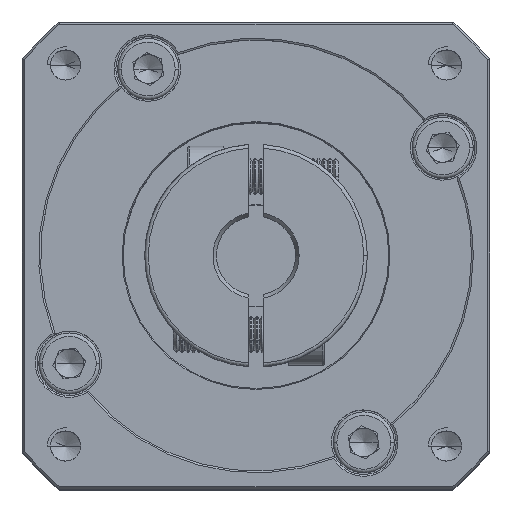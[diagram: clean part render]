
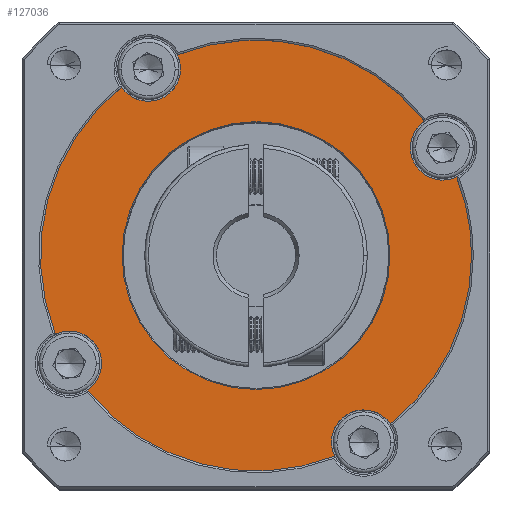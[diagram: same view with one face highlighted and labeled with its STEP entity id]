
A CAD part, top view. The second image highlights one B-rep face of the part: STEP entity #127036.
In plain terms, the highlighted planar face has unit normal (0, 0, 1).
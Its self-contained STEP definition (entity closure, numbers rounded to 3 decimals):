
#2650 = DIRECTION ( 'NONE',  ( 1., 0., 0. ) ) ;
#3267 = DIRECTION ( 'NONE',  ( 1., 0., 0. ) ) ;
#4572 = ORIENTED_EDGE ( 'NONE', *, *, #99237, .F. ) ;
#5216 = CARTESIAN_POINT ( 'NONE',  ( -70.766, 27.235, -0.205 ) ) ;
#6564 = AXIS2_PLACEMENT_3D ( 'NONE', #40807, #78964, #31828 ) ;
#7688 = EDGE_CURVE ( 'NONE', #88478, #31605, #40084, .T. ) ;
#8505 = DIRECTION ( 'NONE',  ( 0., 0., 1. ) ) ;
#8699 = DIRECTION ( 'NONE',  ( 0., 0., 1. ) ) ;
#11691 = AXIS2_PLACEMENT_3D ( 'NONE', #57181, #8505, #39132 ) ;
#12257 = DIRECTION ( 'NONE',  ( 1., 0., 0. ) ) ;
#13693 = CARTESIAN_POINT ( 'NONE',  ( -42.834, 38.18, -0.205 ) ) ;
#15577 = EDGE_CURVE ( 'NONE', #54577, #70240, #33270, .T. ) ;
#15977 = VERTEX_POINT ( 'NONE', #23398 ) ;
#16323 = CARTESIAN_POINT ( 'NONE',  ( -42.834, 38.18, -0.205 ) ) ;
#17030 = CIRCLE ( 'NONE', #90795, 4.5 ) ;
#17918 = CARTESIAN_POINT ( 'NONE',  ( -24.117, 14.735, -0.205 ) ) ;
#18162 = CARTESIAN_POINT ( 'NONE',  ( -16.853, 53.18, -0.205 ) ) ;
#20881 = AXIS2_PLACEMENT_3D ( 'NONE', #125095, #68085, #97557 ) ;
#21136 = DIRECTION ( 'NONE',  ( 1., 0., 0. ) ) ;
#22475 = ORIENTED_EDGE ( 'NONE', *, *, #88503, .F. ) ;
#22782 = CARTESIAN_POINT ( 'NONE',  ( -21.353, 53.18, -0.205 ) ) ;
#22788 = FACE_BOUND ( 'NONE', #65210, .T. ) ;
#23299 = CIRCLE ( 'NONE', #11691, 4.5 ) ;
#23398 = CARTESIAN_POINT ( 'NONE',  ( -19.389, 56.898, -0.205 ) ) ;
#23773 = CARTESIAN_POINT ( 'NONE',  ( -12.834, 38.18, -0.205 ) ) ;
#25621 = AXIS2_PLACEMENT_3D ( 'NONE', #77647, #46822, #56715 ) ;
#26895 = EDGE_LOOP ( 'NONE', ( #22475, #42363, #88375, #87021, #118556, #88407, #41017, #121483, #44416, #4572, #43241, #50166, #121876 ) ) ;
#27070 = DIRECTION ( 'NONE',  ( 1., 0., 0. ) ) ;
#28492 = EDGE_CURVE ( 'NONE', #63857, #116833, #39585, .T. ) ;
#29869 = CIRCLE ( 'NONE', #107135, 4.5 ) ;
#31605 = VERTEX_POINT ( 'NONE', #5216 ) ;
#31828 = DIRECTION ( 'NONE',  ( 1., 0., 0. ) ) ;
#33270 = CIRCLE ( 'NONE', #102366, 30. ) ;
#35493 = CARTESIAN_POINT ( 'NONE',  ( -42.834, 38.18, -0.205 ) ) ;
#36083 = CIRCLE ( 'NONE', #20881, 30. ) ;
#36533 = VERTEX_POINT ( 'NONE', #41508 ) ;
#36622 = EDGE_CURVE ( 'NONE', #116833, #63857, #51953, .T. ) ;
#38465 = EDGE_CURVE ( 'NONE', #96349, #36533, #29869, .T. ) ;
#39132 = DIRECTION ( 'NONE',  ( 1., 0., 0. ) ) ;
#39558 = VERTEX_POINT ( 'NONE', #23773 ) ;
#39585 = CIRCLE ( 'NONE', #59888, 18.644 ) ;
#40084 = CIRCLE ( 'NONE', #62872, 4.5 ) ;
#40807 = CARTESIAN_POINT ( 'NONE',  ( -16.853, 53.18, -0.205 ) ) ;
#41017 = ORIENTED_EDGE ( 'NONE', *, *, #59241, .F. ) ;
#41508 = CARTESIAN_POINT ( 'NONE',  ( -53.334, 64.161, -0.205 ) ) ;
#42363 = ORIENTED_EDGE ( 'NONE', *, *, #15577, .T. ) ;
#43241 = ORIENTED_EDGE ( 'NONE', *, *, #38465, .F. ) ;
#44416 = ORIENTED_EDGE ( 'NONE', *, *, #55334, .T. ) ;
#46822 = DIRECTION ( 'NONE',  ( 0., 0., 1. ) ) ;
#49450 = DIRECTION ( 'NONE',  ( 1., 0., 0. ) ) ;
#49521 = AXIS2_PLACEMENT_3D ( 'NONE', #117086, #97726, #21136 ) ;
#50058 = CIRCLE ( 'NONE', #6564, 4.5 ) ;
#50166 = ORIENTED_EDGE ( 'NONE', *, *, #86617, .T. ) ;
#50862 = EDGE_CURVE ( 'NONE', #39558, #72045, #36083, .T. ) ;
#51953 = CIRCLE ( 'NONE', #80650, 18.644 ) ;
#54577 = VERTEX_POINT ( 'NONE', #73579 ) ;
#55334 = EDGE_CURVE ( 'NONE', #15977, #116446, #99014, .T. ) ;
#55677 = AXIS2_PLACEMENT_3D ( 'NONE', #18162, #96845, #78061 ) ;
#56715 = DIRECTION ( 'NONE',  ( 1., 0., 0. ) ) ;
#57122 = CARTESIAN_POINT ( 'NONE',  ( -42.834, 38.18, -0.205 ) ) ;
#57181 = CARTESIAN_POINT ( 'NONE',  ( -57.834, 64.161, -0.205 ) ) ;
#57955 = PLANE ( 'NONE',  #49521 ) ;
#59241 = EDGE_CURVE ( 'NONE', #84306, #72045, #50058, .T. ) ;
#59888 = AXIS2_PLACEMENT_3D ( 'NONE', #66486, #116603, #27070 ) ;
#60139 = CIRCLE ( 'NONE', #25621, 4.5 ) ;
#61770 = DIRECTION ( 'NONE',  ( 0., 0., 1. ) ) ;
#62691 = CIRCLE ( 'NONE', #63786, 30. ) ;
#62872 = AXIS2_PLACEMENT_3D ( 'NONE', #102816, #61770, #3267 ) ;
#63786 = AXIS2_PLACEMENT_3D ( 'NONE', #99480, #89635, #12257 ) ;
#63857 = VERTEX_POINT ( 'NONE', #90259 ) ;
#63988 = CARTESIAN_POINT ( 'NONE',  ( -14.902, 49.125, -0.205 ) ) ;
#65210 = EDGE_LOOP ( 'NONE', ( #116607, #125534 ) ) ;
#66486 = CARTESIAN_POINT ( 'NONE',  ( -42.834, 38.18, -0.205 ) ) ;
#66835 = DIRECTION ( 'NONE',  ( 0., 0., 1. ) ) ;
#67260 = CARTESIAN_POINT ( 'NONE',  ( -57.834, 64.161, -0.205 ) ) ;
#68085 = DIRECTION ( 'NONE',  ( 0., 0., 1. ) ) ;
#68543 = DIRECTION ( 'NONE',  ( 1., 0., 0. ) ) ;
#70240 = VERTEX_POINT ( 'NONE', #120484 ) ;
#72045 = VERTEX_POINT ( 'NONE', #63988 ) ;
#72288 = EDGE_CURVE ( 'NONE', #15977, #84306, #126268, .T. ) ;
#73579 = CARTESIAN_POINT ( 'NONE',  ( -66.279, 19.463, -0.205 ) ) ;
#75677 = CIRCLE ( 'NONE', #98453, 4.5 ) ;
#75929 = DIRECTION ( 'NONE',  ( 0., 0., 1. ) ) ;
#76402 = DIRECTION ( 'NONE',  ( 1., 0., 0. ) ) ;
#77647 = CARTESIAN_POINT ( 'NONE',  ( -68.815, 23.18, -0.205 ) ) ;
#78061 = DIRECTION ( 'NONE',  ( 1., 0., 0. ) ) ;
#78155 = DIRECTION ( 'NONE',  ( 0., 0., 1. ) ) ;
#78964 = DIRECTION ( 'NONE',  ( 0., 0., 1. ) ) ;
#80650 = AXIS2_PLACEMENT_3D ( 'NONE', #35493, #102710, #83862 ) ;
#80860 = CARTESIAN_POINT ( 'NONE',  ( -32.334, 12.2, -0.205 ) ) ;
#82087 = DIRECTION ( 'NONE',  ( 0., 0., 1. ) ) ;
#83862 = DIRECTION ( 'NONE',  ( 1., 0., 0. ) ) ;
#84306 = VERTEX_POINT ( 'NONE', #22782 ) ;
#86617 = EDGE_CURVE ( 'NONE', #96349, #31605, #99866, .T. ) ;
#87021 = ORIENTED_EDGE ( 'NONE', *, *, #124863, .F. ) ;
#88375 = ORIENTED_EDGE ( 'NONE', *, *, #118418, .F. ) ;
#88407 = ORIENTED_EDGE ( 'NONE', *, *, #50862, .T. ) ;
#88478 = VERTEX_POINT ( 'NONE', #104230 ) ;
#88503 = EDGE_CURVE ( 'NONE', #54577, #88478, #60139, .T. ) ;
#89635 = DIRECTION ( 'NONE',  ( 0., 0., 1. ) ) ;
#90259 = CARTESIAN_POINT ( 'NONE',  ( -24.19, 38.18, -0.205 ) ) ;
#90795 = AXIS2_PLACEMENT_3D ( 'NONE', #115765, #75929, #94711 ) ;
#92758 = VERTEX_POINT ( 'NONE', #17918 ) ;
#94684 = FACE_OUTER_BOUND ( 'NONE', #26895, .T. ) ;
#94711 = DIRECTION ( 'NONE',  ( 1., 0., 0. ) ) ;
#95427 = DIRECTION ( 'NONE',  ( 1., 0., 0. ) ) ;
#96349 = VERTEX_POINT ( 'NONE', #117863 ) ;
#96845 = DIRECTION ( 'NONE',  ( 0., 0., 1. ) ) ;
#97131 = CARTESIAN_POINT ( 'NONE',  ( -61.478, 38.18, -0.205 ) ) ;
#97557 = DIRECTION ( 'NONE',  ( 1., 0., 0. ) ) ;
#97726 = DIRECTION ( 'NONE',  ( 0., 0., 1. ) ) ;
#98453 = AXIS2_PLACEMENT_3D ( 'NONE', #108143, #78155, #49450 ) ;
#99014 = CIRCLE ( 'NONE', #122376, 30. ) ;
#99237 = EDGE_CURVE ( 'NONE', #36533, #116446, #23299, .T. ) ;
#99480 = CARTESIAN_POINT ( 'NONE',  ( -42.834, 38.18, -0.205 ) ) ;
#99866 = CIRCLE ( 'NONE', #113238, 30. ) ;
#102366 = AXIS2_PLACEMENT_3D ( 'NONE', #13693, #82087, #2650 ) ;
#102710 = DIRECTION ( 'NONE',  ( 0., 0., -1. ) ) ;
#102816 = CARTESIAN_POINT ( 'NONE',  ( -68.815, 23.18, -0.205 ) ) ;
#104230 = CARTESIAN_POINT ( 'NONE',  ( -64.315, 23.18, -0.205 ) ) ;
#106957 = EDGE_CURVE ( 'NONE', #92758, #39558, #62691, .T. ) ;
#107135 = AXIS2_PLACEMENT_3D ( 'NONE', #67260, #8699, #68543 ) ;
#108143 = CARTESIAN_POINT ( 'NONE',  ( -27.834, 12.2, -0.205 ) ) ;
#109125 = VERTEX_POINT ( 'NONE', #80860 ) ;
#113238 = AXIS2_PLACEMENT_3D ( 'NONE', #16323, #66835, #95427 ) ;
#115765 = CARTESIAN_POINT ( 'NONE',  ( -27.834, 12.2, -0.205 ) ) ;
#116262 = DIRECTION ( 'NONE',  ( 0., 0., 1. ) ) ;
#116446 = VERTEX_POINT ( 'NONE', #121731 ) ;
#116603 = DIRECTION ( 'NONE',  ( 0., 0., -1. ) ) ;
#116607 = ORIENTED_EDGE ( 'NONE', *, *, #28492, .T. ) ;
#116833 = VERTEX_POINT ( 'NONE', #97131 ) ;
#117086 = CARTESIAN_POINT ( 'NONE',  ( -42.834, 38.18, -0.205 ) ) ;
#117863 = CARTESIAN_POINT ( 'NONE',  ( -61.551, 61.625, -0.205 ) ) ;
#118418 = EDGE_CURVE ( 'NONE', #109125, #70240, #17030, .T. ) ;
#118556 = ORIENTED_EDGE ( 'NONE', *, *, #106957, .T. ) ;
#120484 = CARTESIAN_POINT ( 'NONE',  ( -31.889, 10.248, -0.205 ) ) ;
#121483 = ORIENTED_EDGE ( 'NONE', *, *, #72288, .F. ) ;
#121731 = CARTESIAN_POINT ( 'NONE',  ( -53.779, 66.112, -0.205 ) ) ;
#121876 = ORIENTED_EDGE ( 'NONE', *, *, #7688, .F. ) ;
#122376 = AXIS2_PLACEMENT_3D ( 'NONE', #57122, #116262, #76402 ) ;
#124863 = EDGE_CURVE ( 'NONE', #92758, #109125, #75677, .T. ) ;
#125095 = CARTESIAN_POINT ( 'NONE',  ( -42.834, 38.18, -0.205 ) ) ;
#125534 = ORIENTED_EDGE ( 'NONE', *, *, #36622, .T. ) ;
#126268 = CIRCLE ( 'NONE', #55677, 4.5 ) ;
#127036 = ADVANCED_FACE ( 'NONE', ( #22788, #94684 ), #57955, .T. ) ;
